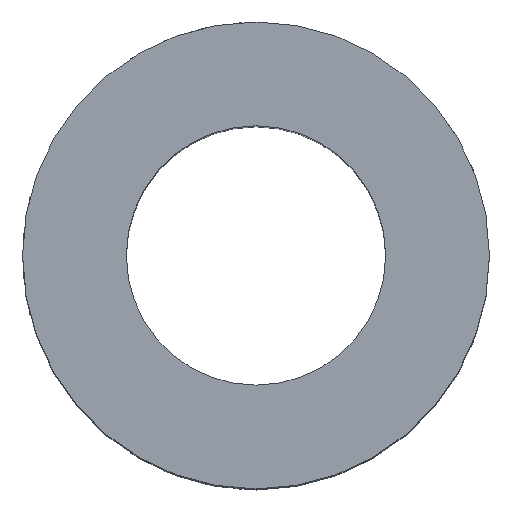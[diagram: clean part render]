
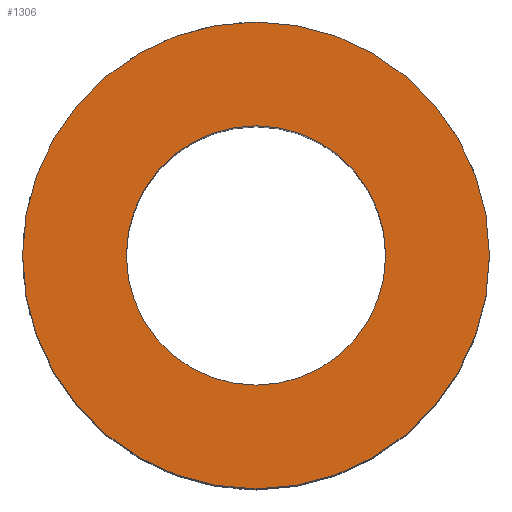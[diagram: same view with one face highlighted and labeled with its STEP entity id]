
A CAD part, top view. The second image highlights one B-rep face of the part: STEP entity #1306.
In plain terms, the highlighted planar face has unit normal (0, 0, 1).
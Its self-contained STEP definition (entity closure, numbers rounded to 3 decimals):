
#51=CARTESIAN_POINT('',(-14.288,0.,37.85));
#52=VERTEX_POINT('',#51);
#68=CARTESIAN_POINT('',(14.288,0.,37.85));
#69=VERTEX_POINT('',#68);
#76=CARTESIAN_POINT('',(0.0,0.0,37.85));
#77=DIRECTION('',(0.0,0.0,-1.0));
#78=DIRECTION('',(-1.0,0.0,0.0));
#79=AXIS2_PLACEMENT_3D('',#76,#77,#78);
#80=CIRCLE('',#79,14.288);
#81=EDGE_CURVE('',#69,#52,#80,.T.);
#91=CARTESIAN_POINT('',(-7.938,0.,37.85));
#92=VERTEX_POINT('',#91);
#101=CARTESIAN_POINT('',(7.938,0.,37.85));
#102=VERTEX_POINT('',#101);
#103=CARTESIAN_POINT('',(0.0,0.0,37.85));
#104=DIRECTION('',(0.0,0.0,-1.0));
#105=DIRECTION('',(-1.0,0.0,0.0));
#106=AXIS2_PLACEMENT_3D('',#103,#104,#105);
#107=CIRCLE('',#106,7.938);
#108=EDGE_CURVE('',#102,#92,#107,.T.);
#1265=CARTESIAN_POINT('',(0.0,0.0,37.85));
#1266=DIRECTION('',(0.0,0.0,-1.0));
#1267=DIRECTION('',(-1.0,0.0,0.0));
#1268=AXIS2_PLACEMENT_3D('',#1265,#1266,#1267);
#1269=CIRCLE('',#1268,7.938);
#1270=EDGE_CURVE('',#92,#102,#1269,.T.);
#1281=CARTESIAN_POINT('',(0.0,0.0,37.85));
#1282=DIRECTION('',(0.0,0.0,-1.0));
#1283=DIRECTION('',(-1.0,0.0,0.0));
#1284=AXIS2_PLACEMENT_3D('',#1281,#1282,#1283);
#1285=CIRCLE('',#1284,14.288);
#1286=EDGE_CURVE('',#52,#69,#1285,.T.);
#1293=CARTESIAN_POINT('',(0.0,0.0,37.85));
#1294=DIRECTION('',(0.0,0.0,-1.0));
#1295=DIRECTION('',(-1.0,0.0,0.0));
#1296=AXIS2_PLACEMENT_3D('',#1293,#1294,#1295);
#1297=PLANE('',#1296);
#1298=ORIENTED_EDGE('',*,*,#81,.F.);
#1299=ORIENTED_EDGE('',*,*,#1286,.F.);
#1300=EDGE_LOOP('',(#1298,#1299));
#1301=FACE_OUTER_BOUND('',#1300,.T.);
#1302=ORIENTED_EDGE('',*,*,#108,.T.);
#1303=ORIENTED_EDGE('',*,*,#1270,.T.);
#1304=EDGE_LOOP('',(#1302,#1303));
#1305=FACE_BOUND('',#1304,.T.);
#1306=ADVANCED_FACE('',(#1301,#1305),#1297,.F.);
